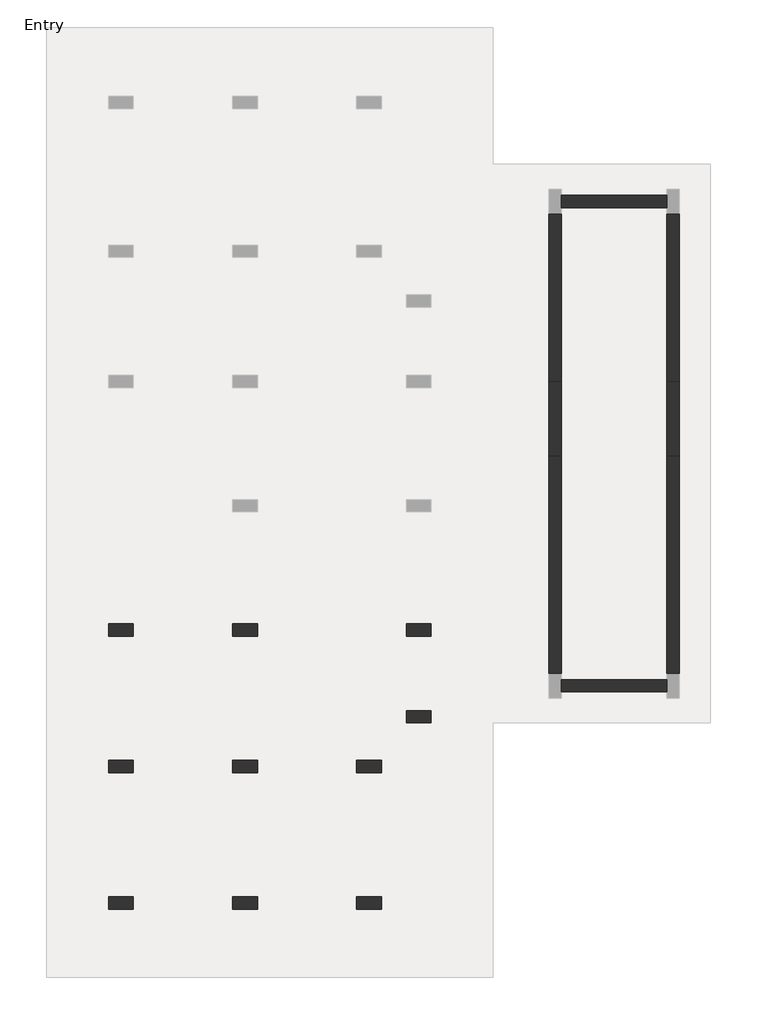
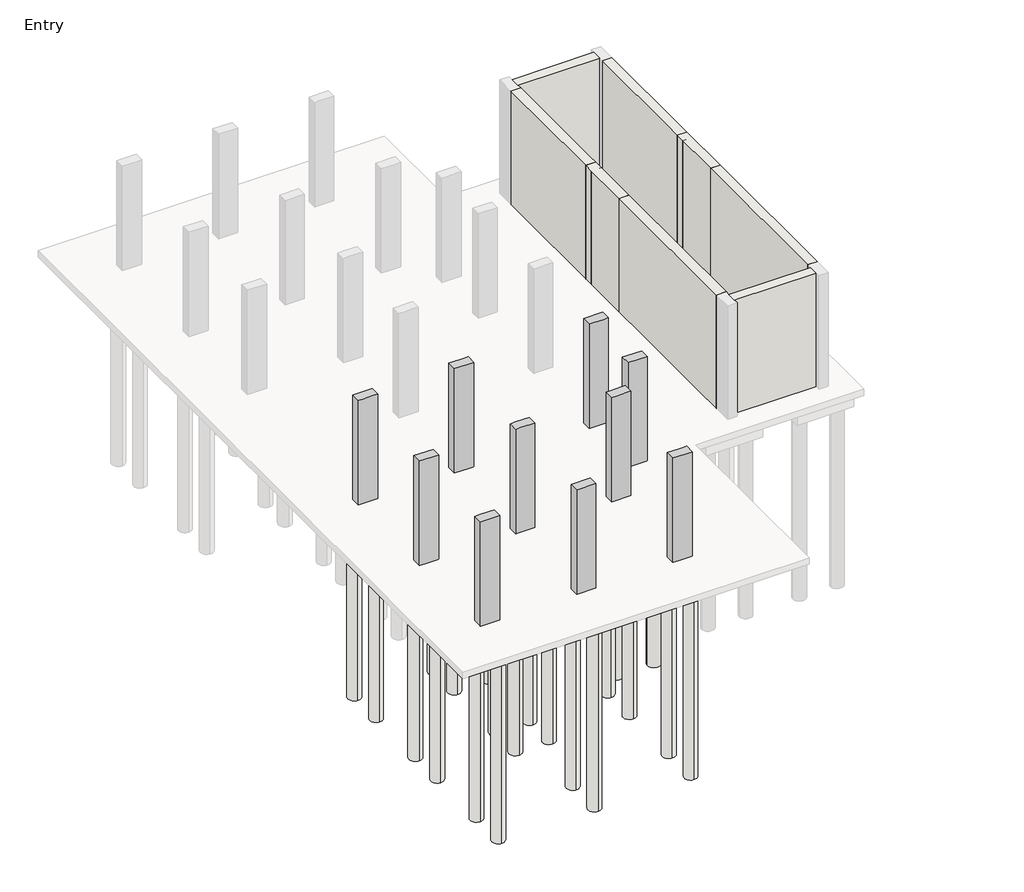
# One storey, part 1 of 3: 35 slabs, 10 columns, 8 walls.
"""IFC4 building model written with IfcOpenShell, lengths in millimetres."""

from ifc_helpers import new_model, si_unit, point, frame, frame_2d, origin, origin_with_axes, place, context, project, spatial, polyline, circle_curve, trimmed, segment, composite_curve, outline, extrude, faceted_brep, element, save

model = new_model("IFC4")

# Units and contexts
model_context = context("Model", 3, world=origin())
ifc_project = project(units=[si_unit("LENGTHUNIT", "METRE", prefix="MILLI")], contexts=[model_context])

# Site, building, storey
site = spatial("IfcSite", under=ifc_project)
building = spatial("IfcBuilding", under=site)
storey = spatial("IfcBuildingStorey", under=building, Name="Entry", Elevation=0.0)

# Columns
placement = place(None, origin())
element("IfcColumn", 1, ObjectType="Concrete-Rectangular-Column : 12 x 24", at=placement, inside=storey, context=model_context, shape_type="Brep", body=[
    faceted_brep([(-12629.5554735, 1692.9867088, 0.0), (-12019.9554735, 1692.9867088, 0.0), (-12019.9554735, 1388.1867088, 0.0), (-12629.5554735, 1388.1867088, 0.0), (-12629.5554735, 1692.9867088, 3505.2), (-12477.1554735, 1692.9867088, 3505.2), (-12172.3554735, 1692.9867088, 3505.2), (-12019.9554735, 1692.9867088, 3505.2), (-12019.9554735, 1692.9867088, 2895.6), (-12629.5554735, 1692.9867088, 2895.6), (-12019.9554735, 1388.1867088, 3505.2), (-12019.9554735, 1388.1867088, 2895.6), (-12172.3554735, 1388.1867088, 3505.2), (-12477.1554735, 1388.1867088, 3505.2), (-12629.5554735, 1388.1867088, 3505.2), (-12629.5554735, 1388.1867088, 2895.6)], [[[0, 1, 2, 3]], [[4, 5, 6, 7, 8, 1, 0, 9]], [[7, 10, 11, 2, 1, 8]], [[10, 12, 13, 14, 15, 3, 2, 11]], [[14, 4, 9, 0, 3, 15]], [[4, 14, 13, 12, 10, 7, 6, 5]]]),
])
element("IfcColumn", 2, ObjectType="Concrete-Rectangular-Column : 12 x 24", at=placement, inside=storey, context=model_context, shape_type="Brep", body=[
    faceted_brep([(-12629.5554735, -1659.8132912, 0.0), (-12019.9554735, -1659.8132912, 0.0), (-12019.9554735, -1964.6132912, 0.0), (-12629.5554735, -1964.6132912, 0.0), (-12629.5554735, -1659.8132912, 3505.2), (-12477.1554735, -1659.8132912, 3505.2), (-12172.3554735, -1659.8132912, 3505.2), (-12019.9554735, -1659.8132912, 3505.2), (-12019.9554735, -1659.8132912, 2895.6), (-12629.5554735, -1659.8132912, 2895.6), (-12019.9554735, -1964.6132912, 3505.2), (-12019.9554735, -1964.6132912, 2895.6), (-12172.3554735, -1964.6132912, 3505.2), (-12477.1554735, -1964.6132912, 3505.2), (-12629.5554735, -1964.6132912, 3505.2), (-12629.5554735, -1964.6132912, 2895.6)], [[[0, 1, 2, 3]], [[4, 5, 6, 7, 8, 1, 0, 9]], [[7, 10, 11, 2, 1, 8]], [[10, 12, 13, 14, 15, 3, 2, 11]], [[14, 4, 9, 0, 3, 15]], [[4, 14, 13, 12, 10, 7, 6, 5]]]),
])
element("IfcColumn", 3, ObjectType="Concrete-Rectangular-Column : 12 x 24", at=placement, inside=storey, context=model_context, shape_type="Brep", body=[
    faceted_brep([(-12629.5554735, -5012.6132912, 0.0), (-12019.9554735, -5012.6132912, 0.0), (-12019.9554735, -5317.4132912, 0.0), (-12629.5554735, -5317.4132912, 0.0), (-12629.5554735, -5012.6132912, 3505.2), (-12477.1554735, -5012.6132912, 3505.2), (-12172.3554735, -5012.6132912, 3505.2), (-12019.9554735, -5012.6132912, 3505.2), (-12019.9554735, -5012.6132912, 2895.6), (-12629.5554735, -5012.6132912, 2895.6), (-12019.9554735, -5317.4132912, 3505.2), (-12019.9554735, -5317.4132912, 2895.6), (-12629.5554735, -5317.4132912, 3505.2), (-12629.5554735, -5317.4132912, 2895.6)], [[[0, 1, 2, 3]], [[4, 5, 6, 7, 8, 1, 0, 9]], [[7, 10, 11, 2, 1, 8]], [[10, 12, 13, 3, 2, 11]], [[12, 4, 9, 0, 3, 13]], [[4, 12, 10, 7, 6, 5]]]),
])
element("IfcColumn", 4, ObjectType="Concrete-Rectangular-Column : 12 x 24", at=placement, inside=storey, context=model_context, shape_type="Brep", body=[
    faceted_brep([(-15677.5554735, -1659.8132912, 0.0), (-15067.9554735, -1659.8132912, 0.0), (-15067.9554735, -1964.6132912, 0.0), (-15677.5554735, -1964.6132912, 0.0), (-15677.5554735, -1659.8132912, 3505.2), (-15525.1554735, -1659.8132912, 3505.2), (-15220.3554735, -1659.8132912, 3505.2), (-15067.9554735, -1659.8132912, 3505.2), (-15067.9554735, -1659.8132912, 2895.6), (-15067.9554735, -1964.6132912, 3505.2), (-15067.9554735, -1964.6132912, 2895.6), (-15220.3554735, -1964.6132912, 3505.2), (-15525.1554735, -1964.6132912, 3505.2), (-15677.5554735, -1964.6132912, 3505.2)], [[[0, 1, 2, 3]], [[4, 5, 6, 7, 8, 1, 0]], [[7, 9, 10, 2, 1, 8]], [[9, 11, 12, 13, 3, 2, 10]], [[13, 4, 0, 3]], [[4, 13, 12, 11, 9, 7, 6, 5]]]),
])
element("IfcColumn", 5, ObjectType="Concrete-Rectangular-Column : 12 x 24", at=placement, inside=storey, context=model_context, shape_type="Brep", body=[
    faceted_brep([(-15677.5554735, -5012.6132912, 0.0), (-15067.9554735, -5012.6132912, 0.0), (-15067.9554735, -5317.4132912, 0.0), (-15677.5554735, -5317.4132912, 0.0), (-15677.5554735, -5012.6132912, 3505.2), (-15525.1554735, -5012.6132912, 3505.2), (-15220.3554735, -5012.6132912, 3505.2), (-15067.9554735, -5012.6132912, 3505.2), (-15067.9554735, -5012.6132912, 2895.6), (-15067.9554735, -5317.4132912, 3505.2), (-15067.9554735, -5317.4132912, 2895.6), (-15677.5554735, -5317.4132912, 3505.2)], [[[0, 1, 2, 3]], [[4, 5, 6, 7, 8, 1, 0]], [[7, 9, 10, 2, 1, 8]], [[9, 11, 3, 2, 10]], [[11, 4, 0, 3]], [[4, 11, 9, 7, 6, 5]]]),
])
element("IfcColumn", 6, ObjectType="Concrete-Rectangular-Column : 12 x 24", at=placement, inside=storey, context=model_context, shape_type="Brep", body=[
    faceted_brep([(-15677.5554735, 1692.9867088, 0.0), (-15067.9554735, 1692.9867088, 0.0), (-15067.9554735, 1388.1867088, 0.0), (-15677.5554735, 1388.1867088, 0.0), (-15677.5554735, 1692.9867088, 3505.2), (-15067.9554735, 1692.9867088, 3505.2), (-15067.9554735, 1692.9867088, 2895.6), (-15067.9554735, 1388.1867088, 3505.2), (-15067.9554735, 1388.1867088, 2895.6), (-15220.3554735, 1388.1867088, 3505.2), (-15525.1554735, 1388.1867088, 3505.2), (-15677.5554735, 1388.1867088, 3505.2)], [[[0, 1, 2, 3]], [[4, 5, 6, 1, 0]], [[5, 7, 8, 2, 1, 6]], [[7, 9, 10, 11, 3, 2, 8]], [[11, 4, 0, 3]], [[4, 11, 10, 9, 7, 5]]]),
])
element("IfcColumn", 7, ObjectType="Concrete-Rectangular-Column : 12 x 24", at=placement, inside=storey, context=model_context, shape_type="Brep", body=[
    faceted_brep([(-8362.3554735, 1692.9867088, 0.0), (-7752.7554735, 1692.9867088, 0.0), (-7752.7554735, 1388.1867088, 0.0), (-8362.3554735, 1388.1867088, 0.0), (-8362.3554735, 1692.9867088, 3505.2), (-8209.9554735, 1692.9867088, 3505.2), (-7905.1554735, 1692.9867088, 3505.2), (-7752.7554735, 1692.9867088, 3505.2), (-8362.3554735, 1692.9867088, 2895.6), (-7752.7554735, 1388.1867088, 3505.2), (-7905.1554735, 1388.1867088, 3505.2), (-8209.9554735, 1388.1867088, 3505.2), (-8362.3554735, 1388.1867088, 3505.2), (-8362.3554735, 1388.1867088, 2895.6)], [[[0, 1, 2, 3]], [[4, 5, 6, 7, 1, 0, 8]], [[7, 9, 2, 1]], [[9, 10, 11, 12, 13, 3, 2]], [[12, 4, 8, 0, 3, 13]], [[4, 12, 11, 10, 9, 7, 6, 5]]]),
])
element("IfcColumn", 8, ObjectType="Concrete-Rectangular-Column : 12 x 24", at=placement, inside=storey, context=model_context, shape_type="Brep", body=[
    faceted_brep([(-9581.5554735, -1659.8132912, 0.0), (-8971.9554735, -1659.8132912, 0.0), (-8971.9554735, -1964.6132912, 0.0), (-9581.5554735, -1964.6132912, 0.0), (-9581.5554735, -1659.8132912, 3505.2), (-9429.1554735, -1659.8132912, 3505.2), (-9124.3554735, -1659.8132912, 3505.2), (-8971.9554735, -1659.8132912, 3505.2), (-9581.5554735, -1659.8132912, 2895.6), (-8971.9554735, -1964.6132912, 3505.2), (-9124.3554735, -1964.6132912, 3505.2), (-9429.1554735, -1964.6132912, 3505.2), (-9581.5554735, -1964.6132912, 3505.2), (-9581.5554735, -1964.6132912, 2895.6)], [[[0, 1, 2, 3]], [[4, 5, 6, 7, 1, 0, 8]], [[7, 9, 2, 1]], [[9, 10, 11, 12, 13, 3, 2]], [[12, 4, 8, 0, 3, 13]], [[4, 12, 11, 10, 9, 7, 6, 5]]]),
])
element("IfcColumn", 9, ObjectType="Concrete-Rectangular-Column : 12 x 24", at=placement, inside=storey, context=model_context, shape_type="Brep", body=[
    faceted_brep([(-9581.5554735, -5012.6132912, 0.0), (-8971.9554735, -5012.6132912, 0.0), (-8971.9554735, -5317.4132912, 0.0), (-9581.5554735, -5317.4132912, 0.0), (-9581.5554735, -5012.6132912, 3505.2), (-9429.1554735, -5012.6132912, 3505.2), (-9124.3554735, -5012.6132912, 3505.2), (-8971.9554735, -5012.6132912, 3505.2), (-9581.5554735, -5012.6132912, 2895.6), (-8971.9554735, -5317.4132912, 3505.2), (-9581.5554735, -5317.4132912, 3505.2), (-9581.5554735, -5317.4132912, 2895.6)], [[[0, 1, 2, 3]], [[4, 5, 6, 7, 1, 0, 8]], [[7, 9, 2, 1]], [[9, 10, 11, 3, 2]], [[10, 4, 8, 0, 3, 11]], [[4, 10, 9, 7, 6, 5]]]),
])
element("IfcColumn", 10, ObjectType="Concrete-Rectangular-Column : 12 x 24", at=placement, inside=storey, context=model_context, shape_type="Brep", body=[
    faceted_brep([(-8362.3554735, -440.6132912, 0.0), (-7752.7554735, -440.6132912, 0.0), (-7752.7554735, -745.4132912, 0.0), (-8362.3554735, -745.4132912, 0.0), (-8362.3554735, -440.6132912, 3505.2), (-8209.9554735, -440.6132912, 3505.2), (-7905.1554735, -440.6132912, 3505.2), (-7752.7554735, -440.6132912, 3505.2), (-8362.3554735, -440.6132912, 2895.6), (-7752.7554735, -745.4132912, 3505.2), (-8362.3554735, -745.4132912, 3505.2), (-8362.3554735, -745.4132912, 2895.6)], [[[0, 1, 2, 3]], [[4, 5, 6, 7, 1, 0, 8]], [[7, 9, 2, 1]], [[9, 10, 11, 3, 2]], [[10, 4, 8, 0, 3, 11]], [[4, 10, 9, 7, 6, 5]]]),
])

# Slabs
element("IfcSlab", 11, ObjectType="Pile Cap-2 Pile : 31\"x61\"x35\"", at=placement, inside=storey, context=model_context, shape_type="SweptSolid", body=[
    extrude(outline(polyline([(-15779.1554735, 2442.2867088), (-14966.3554735, 2442.2867088), (-14966.3554735, 638.8867088), (-15779.1554735, 638.8867088), (-15779.1554735, 2442.2867088)])), frame((0.0, 0.0, -889.0), z_axis=(0.0, 0.0, 1.0), x_axis=(1.0, 0.0, 0.0)), (0.0, 0.0, 1.0), 685.8),
])
element("IfcSlab", 12, ObjectType="Pile Cap-2 Pile : 31\"x61\"x35\"", at=placement, inside=storey, context=model_context, shape_type="SweptSolid", body=[
    extrude(outline(polyline([(-15779.1554735, -910.5132912), (-14966.3554735, -910.5132912), (-14966.3554735, -2713.9132912), (-15779.1554735, -2713.9132912), (-15779.1554735, -910.5132912)])), frame((0.0, 0.0, -889.0), z_axis=(0.0, 0.0, 1.0), x_axis=(1.0, 0.0, 0.0)), (0.0, 0.0, 1.0), 685.8),
])
element("IfcSlab", 13, ObjectType="Pile Cap-2 Pile : 31\"x61\"x35\"", at=placement, inside=storey, context=model_context, shape_type="SweptSolid", body=[
    extrude(outline(polyline([(-15779.1554735, -4263.3132912), (-14966.3554735, -4263.3132912), (-14966.3554735, -6066.7132912), (-15779.1554735, -6066.7132912), (-15779.1554735, -4263.3132912)])), frame((0.0, 0.0, -889.0), z_axis=(0.0, 0.0, 1.0), x_axis=(1.0, 0.0, 0.0)), (0.0, 0.0, 1.0), 685.8),
])
element("IfcSlab", 14, ObjectType="Pile Cap-2 Pile : 31\"x61\"x35\"", at=placement, inside=storey, context=model_context, shape_type="SweptSolid", body=[
    extrude(outline(polyline([(-12731.1554735, -4263.3132912), (-11918.3554735, -4263.3132912), (-11918.3554735, -6066.7132912), (-12731.1554735, -6066.7132912), (-12731.1554735, -4263.3132912)])), frame((0.0, 0.0, -889.0), z_axis=(0.0, 0.0, 1.0), x_axis=(1.0, 0.0, 0.0)), (0.0, 0.0, 1.0), 685.8),
])
element("IfcSlab", 15, ObjectType="Pile Cap-2 Pile : 31\"x61\"x35\"", at=placement, inside=storey, context=model_context, shape_type="SweptSolid", body=[
    extrude(outline(polyline([(-9683.1554735, -4263.3132912), (-8870.3554735, -4263.3132912), (-8870.3554735, -6066.7132912), (-9683.1554735, -6066.7132912), (-9683.1554735, -4263.3132912)])), frame((0.0, 0.0, -889.0), z_axis=(0.0, 0.0, 1.0), x_axis=(1.0, 0.0, 0.0)), (0.0, 0.0, 1.0), 685.8),
])
element("IfcSlab", 16, ObjectType="Pile Cap-2 Pile : 31\"x61\"x35\"", at=placement, inside=storey, context=model_context, shape_type="Brep", body=[
    faceted_brep([(-9683.1554735, -910.5132912, -889.0), (-8959.2554735, -910.5132912, -889.0), (-8870.3554735, -910.5132912, -889.0), (-8870.3554735, -999.4132912, -889.0), (-8870.3554735, -2713.9132912, -889.0), (-9683.1554735, -2713.9132912, -889.0), (-9683.1554735, -2713.9132912, -203.2), (-9683.1554735, -910.5132912, -203.2), (-8870.3554735, -2713.9132912, -203.2), (-8870.3554735, -910.5132912, -203.2), (-8870.3554735, -999.4132912, -203.2), (-8959.2554735, -910.5132912, -203.2)], [[[0, 1, 2, 3, 4, 5]], [[0, 5, 6, 7]], [[5, 4, 8, 6]], [[4, 3, 2, 9, 10, 8]], [[2, 1, 0, 7, 11, 9]], [[7, 6, 8, 10, 9, 11]]]),
])
element("IfcSlab", 17, ObjectType="Pile Cap-2 Pile : 31\"x61\"x35\"", at=placement, inside=storey, context=model_context, shape_type="SweptSolid", body=[
    extrude(outline(polyline([(-8463.9554735, 2442.2867088), (-7651.1554735, 2442.2867088), (-7651.1554735, 638.8867088), (-8463.9554735, 638.8867088), (-8463.9554735, 2442.2867088)])), frame((0.0, 0.0, -889.0), z_axis=(0.0, 0.0, 1.0), x_axis=(1.0, 0.0, 0.0)), (0.0, 0.0, 1.0), 685.8),
])
element("IfcSlab", 18, ObjectType="Pile Cap-2 Pile : 31\"x61\"x35\"", at=placement, inside=storey, context=model_context, shape_type="SweptSolid", body=[
    extrude(outline(polyline([(-7155.8554735, -186.6132912), (-7155.8554735, -999.4132912), (-8870.3554735, -999.4132912), (-8870.3554735, -910.5132912), (-8959.2554735, -910.5132912), (-8959.2554735, -186.6132912), (-7155.8554735, -186.6132912)])), frame((0.0, 0.0, -889.0), z_axis=(0.0, 0.0, 1.0), x_axis=(1.0, 0.0, 0.0)), (0.0, 0.0, 1.0), 685.8),
])
element("IfcSlab", 19, ObjectType="Pile Cap-4 Pile : 72\"x72\"x35\"", at=placement, inside=storey, context=model_context, shape_type="SweptSolid", body=[
    extrude(outline(polyline([(-13239.1554735, 2454.9867088), (-11410.3554735, 2454.9867088), (-11410.3554735, 626.1867088), (-13239.1554735, 626.1867088), (-13239.1554735, 2454.9867088)])), frame((0.0, 0.0, -889.0), z_axis=(0.0, 0.0, 1.0), x_axis=(1.0, 0.0, 0.0)), (0.0, 0.0, 1.0), 685.8),
])
element("IfcSlab", 20, ObjectType="Pile Cap-4 Pile : 72\"x72\"x35\"", at=placement, inside=storey, context=model_context, shape_type="SweptSolid", body=[
    extrude(outline(polyline([(-13239.1554735, -897.8132912), (-11410.3554735, -897.8132912), (-11410.3554735, -2726.6132912), (-13239.1554735, -2726.6132912), (-13239.1554735, -897.8132912)])), frame((0.0, 0.0, -889.0), z_axis=(0.0, 0.0, 1.0), x_axis=(1.0, 0.0, 0.0)), (0.0, 0.0, 1.0), 685.8),
])
element("IfcSlab", 21, ObjectType="Pile-Steel Pipe : 16\" Diameter", at=placement, inside=storey, context=model_context, shape_type="SweptSolid", body=[
    extrude(outline(composite_curve([segment(trimmed(circle_curve(frame_2d((-12858.1554735, 1007.1867088)), 203.2), [point((-12858.1554735, 803.9867088))], [point((-12858.1554735, 1210.3867088))], False, "CARTESIAN"), True, "CONTINUOUS"), segment(trimmed(circle_curve(frame_2d((-12858.1554735, 1007.1867088)), 203.2), [point((-12858.1554735, 1210.3867088))], [point((-12858.1554735, 803.9867088))], False, "CARTESIAN"), True, "CONTINUOUS")], self_intersect=False)), frame((0.0, 0.0, -6985.0), z_axis=(0.0, 0.0, 1.0), x_axis=(1.0, 0.0, 0.0)), (0.0, 0.0, 1.0), 6096.0),
])
element("IfcSlab", 22, ObjectType="Pile-Steel Pipe : 16\" Diameter", at=placement, inside=storey, context=model_context, shape_type="SweptSolid", body=[
    extrude(outline(composite_curve([segment(trimmed(circle_curve(frame_2d((-11791.3554735, 1007.1867088)), 203.2), [point((-11791.3554735, 803.9867088))], [point((-11791.3554735, 1210.3867088))], False, "CARTESIAN"), True, "CONTINUOUS"), segment(trimmed(circle_curve(frame_2d((-11791.3554735, 1007.1867088)), 203.2), [point((-11791.3554735, 1210.3867088))], [point((-11791.3554735, 803.9867088))], False, "CARTESIAN"), True, "CONTINUOUS")], self_intersect=False)), frame((0.0, 0.0, -6985.0), z_axis=(0.0, 0.0, 1.0), x_axis=(1.0, 0.0, 0.0)), (0.0, 0.0, 1.0), 6096.0),
])
element("IfcSlab", 23, ObjectType="Pile-Steel Pipe : 16\" Diameter", at=placement, inside=storey, context=model_context, shape_type="SweptSolid", body=[
    extrude(outline(composite_curve([segment(trimmed(circle_curve(frame_2d((-11791.3554735, 2073.9867088)), 203.2), [point((-11791.3554735, 1870.7867088))], [point((-11791.3554735, 2277.1867088))], False, "CARTESIAN"), True, "CONTINUOUS"), segment(trimmed(circle_curve(frame_2d((-11791.3554735, 2073.9867088)), 203.2), [point((-11791.3554735, 2277.1867088))], [point((-11791.3554735, 1870.7867088))], False, "CARTESIAN"), True, "CONTINUOUS")], self_intersect=False)), frame((0.0, 0.0, -6985.0), z_axis=(0.0, 0.0, 1.0), x_axis=(1.0, 0.0, 0.0)), (0.0, 0.0, 1.0), 6096.0),
])
element("IfcSlab", 24, ObjectType="Pile-Steel Pipe : 16\" Diameter", at=placement, inside=storey, context=model_context, shape_type="SweptSolid", body=[
    extrude(outline(composite_curve([segment(trimmed(circle_curve(frame_2d((-12858.1554735, 2073.9867088)), 203.2), [point((-12858.1554735, 1870.7867088))], [point((-12858.1554735, 2277.1867088))], False, "CARTESIAN"), True, "CONTINUOUS"), segment(trimmed(circle_curve(frame_2d((-12858.1554735, 2073.9867088)), 203.2), [point((-12858.1554735, 2277.1867088))], [point((-12858.1554735, 1870.7867088))], False, "CARTESIAN"), True, "CONTINUOUS")], self_intersect=False)), frame((0.0, 0.0, -6985.0), z_axis=(0.0, 0.0, 1.0), x_axis=(1.0, 0.0, 0.0)), (0.0, 0.0, 1.0), 6096.0),
])
element("IfcSlab", 25, ObjectType="Pile-Steel Pipe : 16\" Diameter", at=placement, inside=storey, context=model_context, shape_type="SweptSolid", body=[
    extrude(outline(composite_curve([segment(trimmed(circle_curve(frame_2d((-12858.1554735, -2345.6132912)), 203.2), [point((-12858.1554735, -2548.8132912))], [point((-12858.1554735, -2142.4132912))], False, "CARTESIAN"), True, "CONTINUOUS"), segment(trimmed(circle_curve(frame_2d((-12858.1554735, -2345.6132912)), 203.2), [point((-12858.1554735, -2142.4132912))], [point((-12858.1554735, -2548.8132912))], False, "CARTESIAN"), True, "CONTINUOUS")], self_intersect=False)), frame((0.0, 0.0, -6985.0), z_axis=(0.0, 0.0, 1.0), x_axis=(1.0, 0.0, 0.0)), (0.0, 0.0, 1.0), 6096.0),
])
element("IfcSlab", 26, ObjectType="Pile-Steel Pipe : 16\" Diameter", at=placement, inside=storey, context=model_context, shape_type="SweptSolid", body=[
    extrude(outline(composite_curve([segment(trimmed(circle_curve(frame_2d((-11791.3554735, -2345.6132912)), 203.2), [point((-11791.3554735, -2548.8132912))], [point((-11791.3554735, -2142.4132912))], False, "CARTESIAN"), True, "CONTINUOUS"), segment(trimmed(circle_curve(frame_2d((-11791.3554735, -2345.6132912)), 203.2), [point((-11791.3554735, -2142.4132912))], [point((-11791.3554735, -2548.8132912))], False, "CARTESIAN"), True, "CONTINUOUS")], self_intersect=False)), frame((0.0, 0.0, -6985.0), z_axis=(0.0, 0.0, 1.0), x_axis=(1.0, 0.0, 0.0)), (0.0, 0.0, 1.0), 6096.0),
])
element("IfcSlab", 27, ObjectType="Pile-Steel Pipe : 16\" Diameter", at=placement, inside=storey, context=model_context, shape_type="SweptSolid", body=[
    extrude(outline(composite_curve([segment(trimmed(circle_curve(frame_2d((-11791.3554735, -1278.8132912)), 203.2), [point((-11791.3554735, -1482.0132912))], [point((-11791.3554735, -1075.6132912))], False, "CARTESIAN"), True, "CONTINUOUS"), segment(trimmed(circle_curve(frame_2d((-11791.3554735, -1278.8132912)), 203.2), [point((-11791.3554735, -1075.6132912))], [point((-11791.3554735, -1482.0132912))], False, "CARTESIAN"), True, "CONTINUOUS")], self_intersect=False)), frame((0.0, 0.0, -6985.0), z_axis=(0.0, 0.0, 1.0), x_axis=(1.0, 0.0, 0.0)), (0.0, 0.0, 1.0), 6096.0),
])
element("IfcSlab", 28, ObjectType="Pile-Steel Pipe : 16\" Diameter", at=placement, inside=storey, context=model_context, shape_type="SweptSolid", body=[
    extrude(outline(composite_curve([segment(trimmed(circle_curve(frame_2d((-12858.1554735, -1278.8132912)), 203.2), [point((-12858.1554735, -1482.0132912))], [point((-12858.1554735, -1075.6132912))], False, "CARTESIAN"), True, "CONTINUOUS"), segment(trimmed(circle_curve(frame_2d((-12858.1554735, -1278.8132912)), 203.2), [point((-12858.1554735, -1075.6132912))], [point((-12858.1554735, -1482.0132912))], False, "CARTESIAN"), True, "CONTINUOUS")], self_intersect=False)), frame((0.0, 0.0, -6985.0), z_axis=(0.0, 0.0, 1.0), x_axis=(1.0, 0.0, 0.0)), (0.0, 0.0, 1.0), 6096.0),
])
element("IfcSlab", 29, ObjectType="Pile-Steel Pipe : 16\" Diameter", at=placement, inside=storey, context=model_context, shape_type="SweptSolid", body=[
    extrude(outline(composite_curve([segment(trimmed(circle_curve(frame_2d((-15372.7554735, 2137.4867088)), 203.2), [point((-15372.7554735, 1934.2867088))], [point((-15372.7554735, 2340.6867088))], False, "CARTESIAN"), True, "CONTINUOUS"), segment(trimmed(circle_curve(frame_2d((-15372.7554735, 2137.4867088)), 203.2), [point((-15372.7554735, 2340.6867088))], [point((-15372.7554735, 1934.2867088))], False, "CARTESIAN"), True, "CONTINUOUS")], self_intersect=False)), frame((0.0, 0.0, -6985.0), z_axis=(0.0, 0.0, 1.0), x_axis=(1.0, 0.0, 0.0)), (0.0, 0.0, 1.0), 6096.0),
])
element("IfcSlab", 30, ObjectType="Pile-Steel Pipe : 16\" Diameter", at=placement, inside=storey, context=model_context, shape_type="SweptSolid", body=[
    extrude(outline(composite_curve([segment(trimmed(circle_curve(frame_2d((-15372.7554735, 943.6867088)), 203.2), [point((-15372.7554735, 740.4867088))], [point((-15372.7554735, 1146.8867088))], False, "CARTESIAN"), True, "CONTINUOUS"), segment(trimmed(circle_curve(frame_2d((-15372.7554735, 943.6867088)), 203.2), [point((-15372.7554735, 1146.8867088))], [point((-15372.7554735, 740.4867088))], False, "CARTESIAN"), True, "CONTINUOUS")], self_intersect=False)), frame((0.0, 0.0, -6985.0), z_axis=(0.0, 0.0, 1.0), x_axis=(1.0, 0.0, 0.0)), (0.0, 0.0, 1.0), 6096.0),
])
element("IfcSlab", 31, ObjectType="Pile-Steel Pipe : 16\" Diameter", at=placement, inside=storey, context=model_context, shape_type="SweptSolid", body=[
    extrude(outline(composite_curve([segment(trimmed(circle_curve(frame_2d((-15372.7554735, -1215.3132912)), 203.2), [point((-15372.7554735, -1418.5132912))], [point((-15372.7554735, -1012.1132912))], False, "CARTESIAN"), True, "CONTINUOUS"), segment(trimmed(circle_curve(frame_2d((-15372.7554735, -1215.3132912)), 203.2), [point((-15372.7554735, -1012.1132912))], [point((-15372.7554735, -1418.5132912))], False, "CARTESIAN"), True, "CONTINUOUS")], self_intersect=False)), frame((0.0, 0.0, -6985.0), z_axis=(0.0, 0.0, 1.0), x_axis=(1.0, 0.0, 0.0)), (0.0, 0.0, 1.0), 6096.0),
])
element("IfcSlab", 32, ObjectType="Pile-Steel Pipe : 16\" Diameter", at=placement, inside=storey, context=model_context, shape_type="SweptSolid", body=[
    extrude(outline(composite_curve([segment(trimmed(circle_curve(frame_2d((-15372.7554735, -2409.1132912)), 203.2), [point((-15372.7554735, -2612.3132912))], [point((-15372.7554735, -2205.9132912))], False, "CARTESIAN"), True, "CONTINUOUS"), segment(trimmed(circle_curve(frame_2d((-15372.7554735, -2409.1132912)), 203.2), [point((-15372.7554735, -2205.9132912))], [point((-15372.7554735, -2612.3132912))], False, "CARTESIAN"), True, "CONTINUOUS")], self_intersect=False)), frame((0.0, 0.0, -6985.0), z_axis=(0.0, 0.0, 1.0), x_axis=(1.0, 0.0, 0.0)), (0.0, 0.0, 1.0), 6096.0),
])
element("IfcSlab", 33, ObjectType="Pile-Steel Pipe : 16\" Diameter", at=placement, inside=storey, context=model_context, shape_type="SweptSolid", body=[
    extrude(outline(composite_curve([segment(trimmed(circle_curve(frame_2d((-15372.7554735, -4568.1132912)), 203.2), [point((-15372.7554735, -4771.3132912))], [point((-15372.7554735, -4364.9132912))], False, "CARTESIAN"), True, "CONTINUOUS"), segment(trimmed(circle_curve(frame_2d((-15372.7554735, -4568.1132912)), 203.2), [point((-15372.7554735, -4364.9132912))], [point((-15372.7554735, -4771.3132912))], False, "CARTESIAN"), True, "CONTINUOUS")], self_intersect=False)), frame((0.0, 0.0, -6985.0), z_axis=(0.0, 0.0, 1.0), x_axis=(1.0, 0.0, 0.0)), (0.0, 0.0, 1.0), 6096.0),
])
element("IfcSlab", 34, ObjectType="Pile-Steel Pipe : 16\" Diameter", at=placement, inside=storey, context=model_context, shape_type="SweptSolid", body=[
    extrude(outline(composite_curve([segment(trimmed(circle_curve(frame_2d((-15372.7554735, -5761.9132912)), 203.2), [point((-15372.7554735, -5965.1132912))], [point((-15372.7554735, -5558.7132912))], False, "CARTESIAN"), True, "CONTINUOUS"), segment(trimmed(circle_curve(frame_2d((-15372.7554735, -5761.9132912)), 203.2), [point((-15372.7554735, -5558.7132912))], [point((-15372.7554735, -5965.1132912))], False, "CARTESIAN"), True, "CONTINUOUS")], self_intersect=False)), frame((0.0, 0.0, -6985.0), z_axis=(0.0, 0.0, 1.0), x_axis=(1.0, 0.0, 0.0)), (0.0, 0.0, 1.0), 6096.0),
])
element("IfcSlab", 35, ObjectType="Pile-Steel Pipe : 16\" Diameter", at=placement, inside=storey, context=model_context, shape_type="SweptSolid", body=[
    extrude(outline(composite_curve([segment(trimmed(circle_curve(frame_2d((-12324.7554735, -4568.1132912)), 203.2), [point((-12324.7554735, -4771.3132912))], [point((-12324.7554735, -4364.9132912))], False, "CARTESIAN"), True, "CONTINUOUS"), segment(trimmed(circle_curve(frame_2d((-12324.7554735, -4568.1132912)), 203.2), [point((-12324.7554735, -4364.9132912))], [point((-12324.7554735, -4771.3132912))], False, "CARTESIAN"), True, "CONTINUOUS")], self_intersect=False)), frame((0.0, 0.0, -6985.0), z_axis=(0.0, 0.0, 1.0), x_axis=(1.0, 0.0, 0.0)), (0.0, 0.0, 1.0), 6096.0),
])
element("IfcSlab", 36, ObjectType="Pile-Steel Pipe : 16\" Diameter", at=placement, inside=storey, context=model_context, shape_type="SweptSolid", body=[
    extrude(outline(composite_curve([segment(trimmed(circle_curve(frame_2d((-12324.7554735, -5761.9132912)), 203.2), [point((-12324.7554735, -5965.1132912))], [point((-12324.7554735, -5558.7132912))], False, "CARTESIAN"), True, "CONTINUOUS"), segment(trimmed(circle_curve(frame_2d((-12324.7554735, -5761.9132912)), 203.2), [point((-12324.7554735, -5558.7132912))], [point((-12324.7554735, -5965.1132912))], False, "CARTESIAN"), True, "CONTINUOUS")], self_intersect=False)), frame((0.0, 0.0, -6985.0), z_axis=(0.0, 0.0, 1.0), x_axis=(1.0, 0.0, 0.0)), (0.0, 0.0, 1.0), 6096.0),
])
element("IfcSlab", 37, ObjectType="Pile-Steel Pipe : 16\" Diameter", at=placement, inside=storey, context=model_context, shape_type="SweptSolid", body=[
    extrude(outline(composite_curve([segment(trimmed(circle_curve(frame_2d((-9276.7554735, -4568.1132912)), 203.2), [point((-9276.7554735, -4771.3132912))], [point((-9276.7554735, -4364.9132912))], False, "CARTESIAN"), True, "CONTINUOUS"), segment(trimmed(circle_curve(frame_2d((-9276.7554735, -4568.1132912)), 203.2), [point((-9276.7554735, -4364.9132912))], [point((-9276.7554735, -4771.3132912))], False, "CARTESIAN"), True, "CONTINUOUS")], self_intersect=False)), frame((0.0, 0.0, -6985.0), z_axis=(0.0, 0.0, 1.0), x_axis=(1.0, 0.0, 0.0)), (0.0, 0.0, 1.0), 6096.0),
])
element("IfcSlab", 38, ObjectType="Pile-Steel Pipe : 16\" Diameter", at=placement, inside=storey, context=model_context, shape_type="SweptSolid", body=[
    extrude(outline(composite_curve([segment(trimmed(circle_curve(frame_2d((-9276.7554735, -5761.9132912)), 203.2), [point((-9276.7554735, -5965.1132912))], [point((-9276.7554735, -5558.7132912))], False, "CARTESIAN"), True, "CONTINUOUS"), segment(trimmed(circle_curve(frame_2d((-9276.7554735, -5761.9132912)), 203.2), [point((-9276.7554735, -5558.7132912))], [point((-9276.7554735, -5965.1132912))], False, "CARTESIAN"), True, "CONTINUOUS")], self_intersect=False)), frame((0.0, 0.0, -6985.0), z_axis=(0.0, 0.0, 1.0), x_axis=(1.0, 0.0, 0.0)), (0.0, 0.0, 1.0), 6096.0),
])
element("IfcSlab", 39, ObjectType="Pile-Steel Pipe : 16\" Diameter", at=placement, inside=storey, context=model_context, shape_type="SweptSolid", body=[
    extrude(outline(composite_curve([segment(trimmed(circle_curve(frame_2d((-9276.7554735, -1215.3132912)), 203.2), [point((-9276.7554735, -1418.5132912))], [point((-9276.7554735, -1012.1132912))], False, "CARTESIAN"), True, "CONTINUOUS"), segment(trimmed(circle_curve(frame_2d((-9276.7554735, -1215.3132912)), 203.2), [point((-9276.7554735, -1012.1132912))], [point((-9276.7554735, -1418.5132912))], False, "CARTESIAN"), True, "CONTINUOUS")], self_intersect=False)), frame((0.0, 0.0, -6985.0), z_axis=(0.0, 0.0, 1.0), x_axis=(1.0, 0.0, 0.0)), (0.0, 0.0, 1.0), 6096.0),
])
element("IfcSlab", 40, ObjectType="Pile-Steel Pipe : 16\" Diameter", at=placement, inside=storey, context=model_context, shape_type="SweptSolid", body=[
    extrude(outline(composite_curve([segment(trimmed(circle_curve(frame_2d((-9276.7554735, -2409.1132912)), 203.2), [point((-9276.7554735, -2612.3132912))], [point((-9276.7554735, -2205.9132912))], False, "CARTESIAN"), True, "CONTINUOUS"), segment(trimmed(circle_curve(frame_2d((-9276.7554735, -2409.1132912)), 203.2), [point((-9276.7554735, -2205.9132912))], [point((-9276.7554735, -2612.3132912))], False, "CARTESIAN"), True, "CONTINUOUS")], self_intersect=False)), frame((0.0, 0.0, -6985.0), z_axis=(0.0, 0.0, 1.0), x_axis=(1.0, 0.0, 0.0)), (0.0, 0.0, 1.0), 6096.0),
])
element("IfcSlab", 41, ObjectType="Pile-Steel Pipe : 16\" Diameter", at=placement, inside=storey, context=model_context, shape_type="SweptSolid", body=[
    extrude(outline(composite_curve([segment(trimmed(circle_curve(frame_2d((-8057.5554735, 2137.4867088)), 203.2), [point((-8057.5554735, 1934.2867088))], [point((-8057.5554735, 2340.6867088))], False, "CARTESIAN"), True, "CONTINUOUS"), segment(trimmed(circle_curve(frame_2d((-8057.5554735, 2137.4867088)), 203.2), [point((-8057.5554735, 2340.6867088))], [point((-8057.5554735, 1934.2867088))], False, "CARTESIAN"), True, "CONTINUOUS")], self_intersect=False)), frame((0.0, 0.0, -6985.0), z_axis=(0.0, 0.0, 1.0), x_axis=(1.0, 0.0, 0.0)), (0.0, 0.0, 1.0), 6096.0),
])
element("IfcSlab", 42, ObjectType="Pile-Steel Pipe : 16\" Diameter", at=placement, inside=storey, context=model_context, shape_type="SweptSolid", body=[
    extrude(outline(composite_curve([segment(trimmed(circle_curve(frame_2d((-8057.5554735, 943.6867088)), 203.2), [point((-8057.5554735, 740.4867088))], [point((-8057.5554735, 1146.8867088))], False, "CARTESIAN"), True, "CONTINUOUS"), segment(trimmed(circle_curve(frame_2d((-8057.5554735, 943.6867088)), 203.2), [point((-8057.5554735, 1146.8867088))], [point((-8057.5554735, 740.4867088))], False, "CARTESIAN"), True, "CONTINUOUS")], self_intersect=False)), frame((0.0, 0.0, -6985.0), z_axis=(0.0, 0.0, 1.0), x_axis=(1.0, 0.0, 0.0)), (0.0, 0.0, 1.0), 6096.0),
])
element("IfcSlab", 43, ObjectType="Pile-Steel Pipe : 16\" Diameter", at=placement, inside=storey, context=model_context, shape_type="SweptSolid", body=[
    extrude(outline(composite_curve([segment(trimmed(circle_curve(frame_2d((-8057.5554735, 3991.6867088)), 203.2), [point((-8057.5554735, 3788.4867088))], [point((-8057.5554735, 4194.8867088))], False, "CARTESIAN"), True, "CONTINUOUS"), segment(trimmed(circle_curve(frame_2d((-8057.5554735, 3991.6867088)), 203.2), [point((-8057.5554735, 4194.8867088))], [point((-8057.5554735, 3788.4867088))], False, "CARTESIAN"), True, "CONTINUOUS")], self_intersect=False)), frame((0.0, 0.0, -6985.0), z_axis=(0.0, 0.0, 1.0), x_axis=(1.0, 0.0, 0.0)), (0.0, 0.0, 1.0), 6096.0),
])
element("IfcSlab", 44, ObjectType="Pile-Steel Pipe : 16\" Diameter", at=placement, inside=storey, context=model_context, shape_type="SweptSolid", body=[
    extrude(outline(composite_curve([segment(trimmed(circle_curve(frame_2d((-7460.6554735, -593.0132912)), 203.2), [point((-7663.8554735, -593.0132912))], [point((-7257.4554735, -593.0132912))], False, "CARTESIAN"), True, "CONTINUOUS"), segment(trimmed(circle_curve(frame_2d((-7460.6554735, -593.0132912)), 203.2), [point((-7257.4554735, -593.0132912))], [point((-7663.8554735, -593.0132912))], False, "CARTESIAN"), True, "CONTINUOUS")], self_intersect=False)), frame((0.0, 0.0, -6985.0), z_axis=(0.0, 0.0, 1.0), x_axis=(1.0, 0.0, 0.0)), (0.0, 0.0, 1.0), 6096.0),
])
element("IfcSlab", 45, ObjectType="Pile-Steel Pipe : 16\" Diameter", at=placement, inside=storey, context=model_context, shape_type="SweptSolid", body=[
    extrude(outline(composite_curve([segment(trimmed(circle_curve(frame_2d((-8654.4554735, -593.0132912)), 203.2), [point((-8857.6554735, -593.0132912))], [point((-8451.2554735, -593.0132912))], False, "CARTESIAN"), True, "CONTINUOUS"), segment(trimmed(circle_curve(frame_2d((-8654.4554735, -593.0132912)), 203.2), [point((-8451.2554735, -593.0132912))], [point((-8857.6554735, -593.0132912))], False, "CARTESIAN"), True, "CONTINUOUS")], self_intersect=False)), frame((0.0, 0.0, -6985.0), z_axis=(0.0, 0.0, 1.0), x_axis=(1.0, 0.0, 0.0)), (0.0, 0.0, 1.0), 6096.0),
])

# Walls
element("IfcWall", 46, ObjectType="Core-Shaft - 12\" Concrete", at=placement, inside=storey, context=model_context, shape_type="SweptSolid", body=[
    extrude(outline(polyline([(-1961.5554735, 11903.7867088), (-4552.3554735, 11903.7867088), (-4552.3554735, 12208.5867088), (-1961.5554735, 12208.5867088), (-1961.5554735, 11903.7867088)])), origin_with_axes(), (0.0, 0.0, 1.0), 3810.0),
])
element("IfcWall", 47, ObjectType="Core-Shaft - 12\" Concrete", at=placement, inside=storey, context=model_context, shape_type="Brep", body=[
    faceted_brep([(-1961.5554735, 11751.3867088, 0.0), (-1961.5554735, 7636.5867088, 0.0), (-1961.5554735, 7636.5867088, 3810.0), (-1961.5554735, 7941.3867088, 3810.0), (-1961.5554735, 11751.3867088, 3810.0), (-1656.7554735, 11751.3867088, 0.0), (-1656.7554735, 11751.3867088, 3810.0), (-1656.7554735, 7941.3867088, 3810.0), (-1656.7554735, 7636.5867088, 3810.0), (-1656.7554735, 7636.5867088, 0.0)], [[[0, 1, 2, 3, 4]], [[5, 6, 7, 8, 9]], [[1, 0, 5, 9]], [[2, 1, 9, 8]], [[4, 3, 2, 8, 7, 6]], [[0, 4, 6, 5]]]),
])
element("IfcWall", 48, ObjectType="Core-Shaft - 12\" Concrete", at=placement, inside=storey, context=model_context, shape_type="Brep", body=[
    faceted_brep([(-1961.5554735, 7636.5867088, 0.0), (-1961.5554735, 5807.7867088, 0.0), (-1961.5554735, 5807.7867088, 3810.0), (-1961.5554735, 6112.5867088, 3810.0), (-1961.5554735, 7331.7867088, 3810.0), (-1961.5554735, 7636.5867088, 3810.0), (-1656.7554735, 7636.5867088, 0.0), (-1656.7554735, 7636.5867088, 3810.0), (-1656.7554735, 7331.7867088, 3810.0), (-1656.7554735, 6112.5867088, 3810.0), (-1656.7554735, 5807.7867088, 3810.0), (-1656.7554735, 5807.7867088, 0.0)], [[[0, 1, 2, 3, 4, 5]], [[6, 7, 8, 9, 10, 11]], [[1, 0, 6, 11]], [[2, 1, 11, 10]], [[5, 4, 3, 2, 10, 9, 8, 7]], [[0, 5, 7, 6]]]),
])
element("IfcWall", 49, ObjectType="Core-Shaft - 12\" Concrete", at=placement, inside=storey, context=model_context, shape_type="Brep", body=[
    faceted_brep([(-4552.3554735, 7636.5867088, 0.0), (-4552.3554735, 11751.3867088, 0.0), (-4552.3554735, 11751.3867088, 3810.0), (-4552.3554735, 7941.3867088, 3810.0), (-4552.3554735, 7636.5867088, 3810.0), (-4857.1554735, 7636.5867088, 0.0), (-4857.1554735, 7636.5867088, 3810.0), (-4857.1554735, 7941.3867088, 3810.0), (-4857.1554735, 11751.3867088, 3810.0), (-4857.1554735, 11751.3867088, 0.0)], [[[0, 1, 2, 3, 4]], [[5, 6, 7, 8, 9]], [[1, 0, 5, 9]], [[2, 1, 9, 8]], [[4, 3, 2, 8, 7, 6]], [[0, 4, 6, 5]]]),
])
element("IfcWall", 50, ObjectType="Core-Shaft - 12\" Concrete", at=placement, inside=storey, context=model_context, shape_type="Brep", body=[
    faceted_brep([(-4857.1554735, 5807.7867088, 0.0), (-4857.1554735, 473.7867088, 0.0), (-4857.1554735, 473.7867088, 3810.0), (-4857.1554735, 5502.9867088, 3810.0), (-4857.1554735, 5807.7867088, 3810.0), (-4552.3554735, 5807.7867088, 0.0), (-4552.3554735, 5807.7867088, 3810.0), (-4552.3554735, 5502.9867088, 3810.0), (-4552.3554735, 473.7867088, 3810.0), (-4552.3554735, 473.7867088, 0.0)], [[[0, 1, 2, 3, 4]], [[5, 6, 7, 8, 9]], [[1, 0, 5, 9]], [[2, 1, 9, 8]], [[4, 3, 2, 8, 7, 6]], [[0, 4, 6, 5]]]),
])
element("IfcWall", 51, ObjectType="Core-Shaft - 12\" Concrete", at=placement, inside=storey, context=model_context, shape_type="SweptSolid", body=[
    extrude(outline(polyline([(-1961.5554735, 16.5867088), (-4552.3554735, 16.5867088), (-4552.3554735, 321.3867088), (-1961.5554735, 321.3867088), (-1961.5554735, 16.5867088)])), origin_with_axes(), (0.0, 0.0, 1.0), 3810.0),
])
element("IfcWall", 52, ObjectType="Core-Shaft - 12\" Concrete", at=placement, inside=storey, context=model_context, shape_type="Brep", body=[
    faceted_brep([(-1656.7554735, 473.7867088, 0.0), (-1656.7554735, 5807.7867088, 0.0), (-1656.7554735, 5807.7867088, 3810.0), (-1656.7554735, 5502.9867088, 3810.0), (-1656.7554735, 473.7867088, 3810.0), (-1961.5554735, 473.7867088, 0.0), (-1961.5554735, 473.7867088, 3810.0), (-1961.5554735, 5502.9867088, 3810.0), (-1961.5554735, 5807.7867088, 3810.0), (-1961.5554735, 5807.7867088, 0.0)], [[[0, 1, 2, 3, 4]], [[5, 6, 7, 8, 9]], [[1, 0, 5, 9]], [[2, 1, 9, 8]], [[4, 3, 2, 8, 7, 6]], [[0, 4, 6, 5]]]),
])
element("IfcWall", 53, ObjectType="Core-Shaft - 12\" Concrete", at=placement, inside=storey, context=model_context, shape_type="Brep", body=[
    faceted_brep([(-4857.1554735, 7636.5867088, 0.0), (-4857.1554735, 5807.7867088, 0.0), (-4857.1554735, 5807.7867088, 3810.0), (-4857.1554735, 6112.5867088, 3810.0), (-4857.1554735, 7331.7867088, 3810.0), (-4857.1554735, 7636.5867088, 3810.0), (-4552.3554735, 7636.5867088, 0.0), (-4552.3554735, 7636.5867088, 3810.0), (-4552.3554735, 7331.7867088, 3810.0), (-4552.3554735, 6112.5867088, 3810.0), (-4552.3554735, 5807.7867088, 3810.0), (-4552.3554735, 5807.7867088, 0.0)], [[[0, 1, 2, 3, 4, 5]], [[6, 7, 8, 9, 10, 11]], [[1, 0, 6, 11]], [[2, 1, 11, 10]], [[5, 4, 3, 2, 10, 9, 8, 7]], [[0, 5, 7, 6]]]),
])

save(model, "model.ifc")
